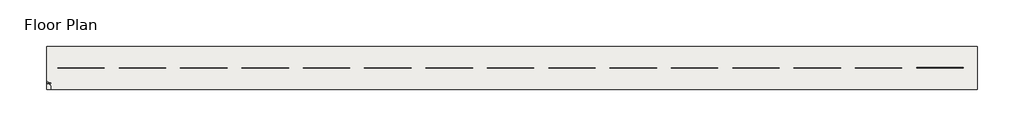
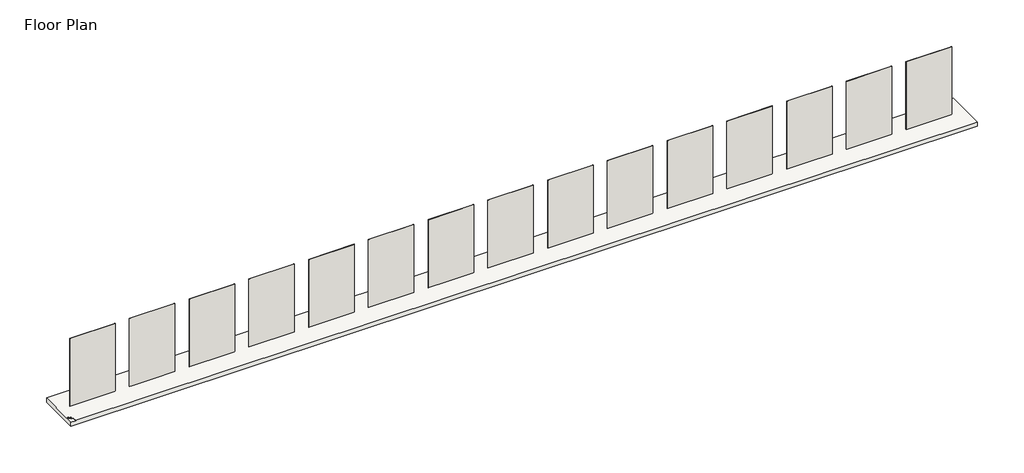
# One storey, incomplete: 15 walls, 1 slab.
"""IFC4 building model written with IfcOpenShell, lengths in millimetres."""

from ifc_helpers import new_model, si_unit, origin, origin_with_axes, place, context, project, spatial, polyline, outline, extrude, faceted_brep, element, save

model = new_model("IFC4")

# Units and contexts
model_context = context("Model", 3, world=origin())
ifc_project = project(units=[si_unit("LENGTHUNIT", "METRE", prefix="MILLI")], contexts=[model_context])

# Site, building, storey
site = spatial("IfcSite", under=ifc_project)
building = spatial("IfcBuilding", under=site)
storey = spatial("IfcBuildingStorey", under=building, Name="Floor Plan", Elevation=0.0)

# Slab
placement = place(None, origin())
element("IfcSlab", 1, ObjectType="Floor 1", at=placement, inside=storey, context=model_context, shape_type="Brep", body=[
    faceted_brep([(491769.564463, -1405.268292, -300.0), (431069.564463, -1405.268292, -300.0), (431069.564463, 1405.268292, -300.0), (491769.564463, 1405.268292, -300.0), (491769.564463, 1405.268292, 0.0), (431069.564463, 1405.268292, 0.0), (431069.564463, -838.8208533, 0.0), (431073.1211266, -836.7674126, 0.0), (431103.8301292, -854.4972635, 0.0), (431103.8301292, -887.6294851, 0.0), (431073.1211266, -905.3593361, 0.0), (431069.564463, -903.3058954, 0.0), (431069.564463, -1029.5470898, 0.0), (431079.1972272, -1035.1085689, 0.0), (431115.3908374, -1014.2121783, 0.0), (431162.4046401, -1041.3556099, 0.0), (431208.4091656, -1014.7948848, 0.0), (431267.6401701, -1048.9919211, 0.0), (431267.6401701, -1095.6301509, 0.0), (431296.9088101, -1078.7318937, 0.0), (431351.5578344, -1110.2835225, 0.0), (431351.5578344, -1149.3943664, 0.0), (431386.1988505, -1169.3943664, 0.0), (431386.1988505, -1405.268292, 0.0), (491769.564463, -1405.268292, 0.0), (431152.4226577, -913.8797767, 0.0), (431198.7748127, -940.6412058, 0.0), (431198.7748127, -995.8128392, 0.0), (431152.4226577, -1022.5742684, 0.0), (431106.0705027, -995.8128392, 0.0), (431106.0705027, -940.6412058, 0.0), (431302.5290945, -971.7658751, 0.0), (431333.3339718, -989.5510793, 0.0), (431333.3339718, -1022.1588741, 0.0), (431302.5290945, -1039.9440783, 0.0), (431271.7242172, -1022.1588741, 0.0), (431271.7242172, -989.5510793, 0.0), (431386.1988505, -1405.268292, -25.0), (431069.564463, -1405.268292, -25.0), (431069.564463, -1029.5470898, -25.0), (431069.564463, -903.3058954, -25.0), (431069.564463, -838.8208533, -25.0), (431386.1988505, -1169.3943664, -25.0), (431351.5578344, -1149.3943664, -25.0), (431351.5578344, -1110.2835225, -25.0), (431296.9088101, -1078.7318937, -25.0), (431267.6401701, -1095.6301509, -25.0), (431267.6401701, -1048.9919211, -25.0), (431208.4091656, -1014.7948848, -25.0), (431162.4046401, -1041.3556099, -25.0), (431115.3908374, -1014.2121783, -25.0), (431079.1972272, -1035.1085689, -25.0), (431198.7748127, -940.6412058, -25.0), (431152.4226577, -913.8797767, -25.0), (431106.0705027, -940.6412058, -25.0), (431106.0705027, -995.8128392, -25.0), (431152.4226577, -1022.5742684, -25.0), (431198.7748127, -995.8128392, -25.0), (431103.8301292, -854.4972635, -25.0), (431073.1211266, -836.7674126, -25.0), (431073.1211266, -905.3593361, -25.0), (431103.8301292, -887.6294851, -25.0), (431333.3339718, -989.5510793, -25.0), (431302.5290945, -971.7658751, -25.0), (431271.7242172, -989.5510793, -25.0), (431271.7242172, -1022.1588741, -25.0), (431302.5290945, -1039.9440783, -25.0), (431333.3339718, -1022.1588741, -25.0)], [[[0, 1, 2, 3]], [[4, 5, 6, 7, 8, 9, 10, 11, 12, 13, 14, 15, 16, 17, 18, 19, 20, 21, 22, 23, 24], [25, 26, 27, 28, 29, 30], [31, 32, 33, 34, 35, 36]], [[1, 0, 24, 23, 37, 38]], [[2, 1, 38, 39, 12, 11, 40, 41, 6, 5]], [[3, 2, 5, 4]], [[42, 43, 44, 45, 46, 47, 48, 49, 50, 51, 39, 38, 37]], [[52, 53, 54, 55, 56, 57]], [[58, 59, 41, 40, 60, 61]], [[62, 63, 64, 65, 66, 67]], [[42, 37, 23, 22]], [[43, 42, 22, 21]], [[44, 43, 21, 20]], [[45, 44, 20, 19]], [[46, 45, 19, 18]], [[47, 46, 18, 17]], [[48, 47, 17, 16]], [[49, 48, 16, 15]], [[50, 49, 15, 14]], [[51, 50, 14, 13]], [[39, 51, 13, 12]], [[53, 52, 26, 25]], [[54, 53, 25, 30]], [[55, 54, 30, 29]], [[56, 55, 29, 28]], [[57, 56, 28, 27]], [[52, 57, 27, 26]], [[59, 58, 8, 7]], [[41, 59, 7, 6]], [[60, 40, 11, 10]], [[61, 60, 10, 9]], [[58, 61, 9, 8]], [[63, 62, 32, 31]], [[64, 63, 31, 36]], [[65, 64, 36, 35]], [[66, 65, 35, 34]], [[67, 66, 34, 33]], [[62, 67, 33, 32]], [[0, 3, 4, 24]]]),
])

# Walls
element("IfcWall", 2, ObjectType="Cemintel Wallboard Recessed Edge 6mm x 900mm x 3000mm", at=placement, inside=storey, context=model_context, shape_type="SweptSolid", body=[
    extrude(outline(polyline([(434848.0, -4.5), (431800.0, -4.5), (431800.0, 1.5), (434848.0, 1.5), (434848.0, -4.5)])), origin_with_axes(), (0.0, 0.0, 1.0), 4820.0),
])
element("IfcWall", 3, ObjectType="Cemintel Wallboard Recessed Edge 6mm x 1200mm x 1800mm", at=placement, inside=storey, context=model_context, shape_type="SweptSolid", body=[
    extrude(outline(polyline([(438848.0, -4.5), (435800.0, -4.5), (435800.0, 1.5), (438848.0, 1.5), (438848.0, -4.5)])), origin_with_axes(), (0.0, 0.0, 1.0), 4820.0),
])
element("IfcWall", 4, ObjectType="Cemintel Wallboard Recessed Edge 6mm x 1200mm x 2400mm", at=placement, inside=storey, context=model_context, shape_type="SweptSolid", body=[
    extrude(outline(polyline([(442848.0, -4.5), (439800.0, -4.5), (439800.0, 1.5), (442848.0, 1.5), (442848.0, -4.5)])), origin_with_axes(), (0.0, 0.0, 1.0), 4820.0),
])
element("IfcWall", 5, ObjectType="Cemintel Wallboard Recessed Edge 6mm x 1200mm x 2700mm", at=placement, inside=storey, context=model_context, shape_type="SweptSolid", body=[
    extrude(outline(polyline([(446848.0, -4.5), (443800.0, -4.5), (443800.0, 1.5), (446848.0, 1.5), (446848.0, -4.5)])), origin_with_axes(), (0.0, 0.0, 1.0), 4820.0),
])
element("IfcWall", 6, ObjectType="Cemintel Wallboard Recessed Edge 6mm x 1200mm x 3000mm", at=placement, inside=storey, context=model_context, shape_type="SweptSolid", body=[
    extrude(outline(polyline([(450848.0, -4.5), (447800.0, -4.5), (447800.0, 1.5), (450848.0, 1.5), (450848.0, -4.5)])), origin_with_axes(), (0.0, 0.0, 1.0), 4820.0),
])
element("IfcWall", 7, ObjectType="Cemintel Wallboard Recessed Edge 6mm x 1200mm x 3600mm", at=placement, inside=storey, context=model_context, shape_type="SweptSolid", body=[
    extrude(outline(polyline([(454848.0, -4.5), (451800.0, -4.5), (451800.0, 1.5), (454848.0, 1.5), (454848.0, -4.5)])), origin_with_axes(), (0.0, 0.0, 1.0), 4820.0),
])
element("IfcWall", 8, ObjectType="Cemintel Wallboard Recessed Edge 6mm x 1200mm x 4200mm", at=placement, inside=storey, context=model_context, shape_type="SweptSolid", body=[
    extrude(outline(polyline([(458848.0, -4.5), (455800.0, -4.5), (455800.0, 1.5), (458848.0, 1.5), (458848.0, -4.5)])), origin_with_axes(), (0.0, 0.0, 1.0), 4820.0),
])
element("IfcWall", 9, ObjectType="Cemintel Wallboard Recessed Edge 6mm x 1350mm x 2400mm", at=placement, inside=storey, context=model_context, shape_type="SweptSolid", body=[
    extrude(outline(polyline([(462848.0, -4.5), (459800.0, -4.5), (459800.0, 1.5), (462848.0, 1.5), (462848.0, -4.5)])), origin_with_axes(), (0.0, 0.0, 1.0), 4820.0),
])
element("IfcWall", 10, ObjectType="Cemintel Wallboard Recessed Edge 6mm x 1350mm x 3000mm", at=placement, inside=storey, context=model_context, shape_type="SweptSolid", body=[
    extrude(outline(polyline([(466848.0, -4.5), (463800.0, -4.5), (463800.0, 1.5), (466848.0, 1.5), (466848.0, -4.5)])), origin_with_axes(), (0.0, 0.0, 1.0), 4820.0),
])
element("IfcWall", 11, ObjectType="Cemintel Wallboard Recessed Edge 6mm x 1350mm x 3600mm", at=placement, inside=storey, context=model_context, shape_type="SweptSolid", body=[
    extrude(outline(polyline([(470848.0, -4.5), (467800.0, -4.5), (467800.0, 1.5), (470848.0, 1.5), (470848.0, -4.5)])), origin_with_axes(), (0.0, 0.0, 1.0), 4820.0),
])
element("IfcWall", 12, ObjectType="Cemintel Wallboard Recessed Edge 6mm x 1350mm x 4200mm", at=placement, inside=storey, context=model_context, shape_type="SweptSolid", body=[
    extrude(outline(polyline([(474848.0, -4.5), (471800.0, -4.5), (471800.0, 1.5), (474848.0, 1.5), (474848.0, -4.5)])), origin_with_axes(), (0.0, 0.0, 1.0), 4820.0),
])
element("IfcWall", 13, ObjectType="Cemintel Wallboard Recessed Edge 9mm x 1200mm x 2400mm", at=placement, inside=storey, context=model_context, shape_type="SweptSolid", body=[
    extrude(outline(polyline([(478848.0, -4.5), (475800.0, -4.5), (475800.0, 4.5), (478848.0, 4.5), (478848.0, -4.5)])), origin_with_axes(), (0.0, 0.0, 1.0), 4820.0),
])
element("IfcWall", 14, ObjectType="Cemintel Wallboard Recessed Edge 9mm x 1200mm x 2700mm", at=placement, inside=storey, context=model_context, shape_type="SweptSolid", body=[
    extrude(outline(polyline([(482848.0, -4.5), (479800.0, -4.5), (479800.0, 4.5), (482848.0, 4.5), (482848.0, -4.5)])), origin_with_axes(), (0.0, 0.0, 1.0), 4820.0),
])
element("IfcWall", 15, ObjectType="Cemintel Wallboard Recessed Edge 9mm x 1200mm x 3000mm", at=placement, inside=storey, context=model_context, shape_type="SweptSolid", body=[
    extrude(outline(polyline([(486848.0, -4.5), (483800.0, -4.5), (483800.0, 4.5), (486848.0, 4.5), (486848.0, -4.5)])), origin_with_axes(), (0.0, 0.0, 1.0), 4820.0),
])
element("IfcWall", 16, ObjectType="Cemintel Wallboard Recessed Edge 12mm x 1200mm x 3000mm", at=placement, inside=storey, context=model_context, shape_type="SweptSolid", body=[
    extrude(outline(polyline([(490848.0, -4.5), (487800.0, -4.5), (487800.0, 7.5), (490848.0, 7.5), (490848.0, -4.5)])), origin_with_axes(), (0.0, 0.0, 1.0), 4820.0),
])

save(model, "model.ifc")
